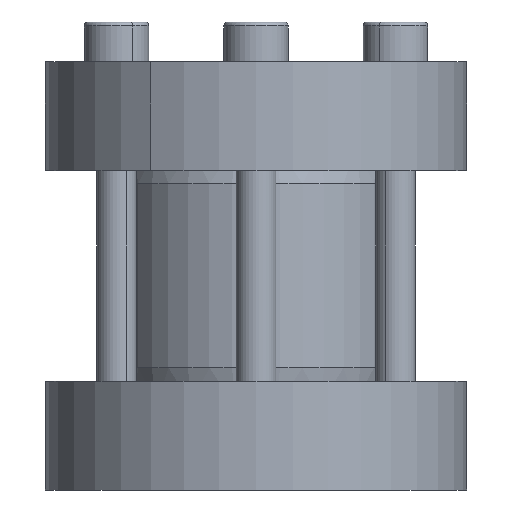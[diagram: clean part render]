
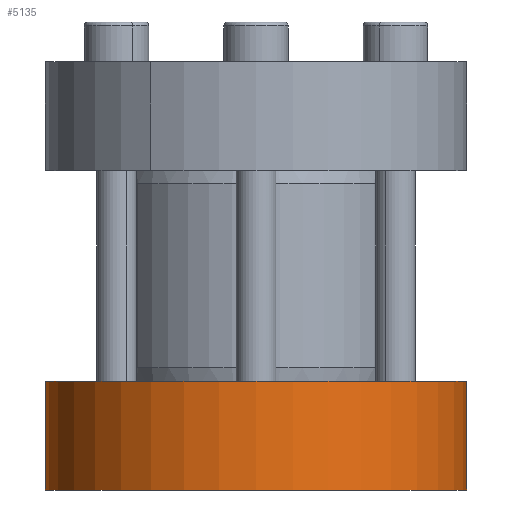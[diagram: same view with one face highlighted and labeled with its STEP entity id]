
A CAD part, front view. The second image highlights one B-rep face of the part: STEP entity #5135.
In plain terms, the highlighted cylindrical face has radius 42.5 mm (diameter 85 mm), a partial arc.
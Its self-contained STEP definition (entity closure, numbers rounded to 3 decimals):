
#96 = VERTEX_POINT ( 'NONE', #3861 ) ;
#294 = DIRECTION ( 'NONE',  ( 1., 0., 0. ) ) ;
#374 = DIRECTION ( 'NONE',  ( 0., 0., 1. ) ) ;
#1261 = EDGE_CURVE ( 'NONE', #96, #7502, #3864, .T. ) ;
#1262 = FACE_OUTER_BOUND ( 'NONE', #3469, .T. ) ;
#2228 = VECTOR ( 'NONE', #6688, 1000. ) ;
#2562 = AXIS2_PLACEMENT_3D ( 'NONE', #4677, #374, #5392 ) ;
#3149 = DIRECTION ( 'NONE',  ( 0., 0., -1. ) ) ;
#3469 = EDGE_LOOP ( 'NONE', ( #7079, #5895, #5607, #8396 ) ) ;
#3738 = CARTESIAN_POINT ( 'NONE',  ( 42.5, 0., 19.257 ) ) ;
#3861 = CARTESIAN_POINT ( 'NONE',  ( -42.5, 0., -2.743 ) ) ;
#3864 = CIRCLE ( 'NONE', #7755, 42.5 ) ;
#4396 = AXIS2_PLACEMENT_3D ( 'NONE', #6702, #3149, #6737 ) ;
#4587 = DIRECTION ( 'NONE',  ( 0., 0., 1. ) ) ;
#4677 = CARTESIAN_POINT ( 'NONE',  ( 0., 0., 19.257 ) ) ;
#5005 = VECTOR ( 'NONE', #7909, 1000. ) ;
#5135 = ADVANCED_FACE ( 'NONE', ( #1262 ), #7953, .T. ) ;
#5392 = DIRECTION ( 'NONE',  ( 1., 0., 0. ) ) ;
#5607 = ORIENTED_EDGE ( 'NONE', *, *, #5619, .T. ) ;
#5619 = EDGE_CURVE ( 'NONE', #6134, #96, #7046, .T. ) ;
#5818 = CARTESIAN_POINT ( 'NONE',  ( -42.5, 0., 19.257 ) ) ;
#5895 = ORIENTED_EDGE ( 'NONE', *, *, #8315, .F. ) ;
#6085 = EDGE_CURVE ( 'NONE', #7612, #7502, #6913, .T. ) ;
#6134 = VERTEX_POINT ( 'NONE', #5818 ) ;
#6596 = CIRCLE ( 'NONE', #2562, 42.5 ) ;
#6688 = DIRECTION ( 'NONE',  ( 0., 0., -1. ) ) ;
#6702 = CARTESIAN_POINT ( 'NONE',  ( 0., 0., 19.257 ) ) ;
#6737 = DIRECTION ( 'NONE',  ( -1., 0., 0. ) ) ;
#6913 = LINE ( 'NONE', #9292, #5005 ) ;
#7046 = LINE ( 'NONE', #8098, #2228 ) ;
#7079 = ORIENTED_EDGE ( 'NONE', *, *, #6085, .F. ) ;
#7502 = VERTEX_POINT ( 'NONE', #8463 ) ;
#7612 = VERTEX_POINT ( 'NONE', #3738 ) ;
#7755 = AXIS2_PLACEMENT_3D ( 'NONE', #8865, #4587, #294 ) ;
#7909 = DIRECTION ( 'NONE',  ( 0., 0., -1. ) ) ;
#7953 = CYLINDRICAL_SURFACE ( 'NONE', #4396, 42.5 ) ;
#8098 = CARTESIAN_POINT ( 'NONE',  ( -42.5, 0., 19.257 ) ) ;
#8315 = EDGE_CURVE ( 'NONE', #6134, #7612, #6596, .T. ) ;
#8396 = ORIENTED_EDGE ( 'NONE', *, *, #1261, .T. ) ;
#8463 = CARTESIAN_POINT ( 'NONE',  ( 42.5, 0., -2.743 ) ) ;
#8865 = CARTESIAN_POINT ( 'NONE',  ( 0., 0., -2.743 ) ) ;
#9292 = CARTESIAN_POINT ( 'NONE',  ( 42.5, 0., 19.257 ) ) ;
